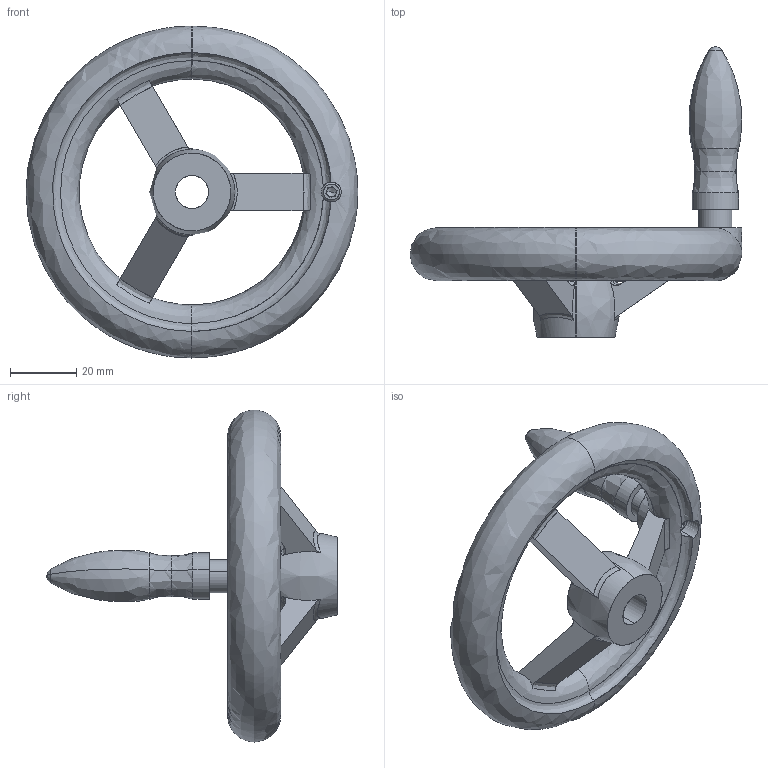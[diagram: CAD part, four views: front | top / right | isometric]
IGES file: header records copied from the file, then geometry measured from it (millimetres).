
Start section: SolidWorks IGES file using analytic representation for surfaces
Global section: file name: C:\Users\IanO\Desktop\Temp File\Process pending\77120_v2\77120_v2_20171108_IGES\77120.W0205.igs; native system: SolidWorks 2017; preprocessor: SolidWorks 2017; author: IanO; date: 171108.083314; units: millimetre
Bounding box: 100 x 87.5 x 100 mm (x, y, z)
Surface area: 23175.3 mm2 (no closed solid volume)
Topology: 0 solids, 0 shells, 146 faces, 1753 edges, 1746 vertices
Faces by surface type: bspline 80, revolution 66
